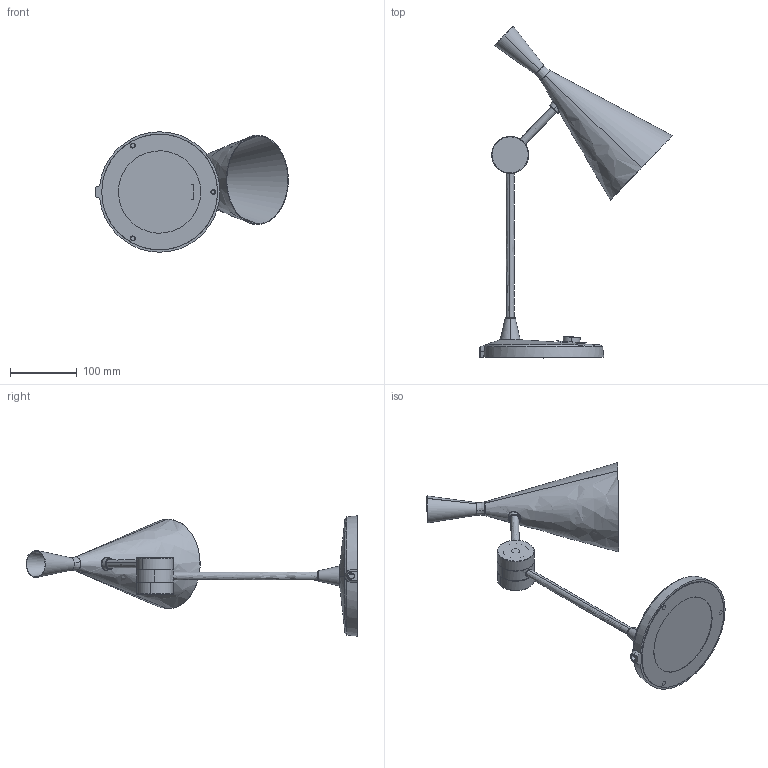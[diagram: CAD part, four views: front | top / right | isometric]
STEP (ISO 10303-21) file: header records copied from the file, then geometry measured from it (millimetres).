
FILE_DESCRIPTION(/* description */ (''),/* implementation_level */ '2;1');
FILE_NAME(/* name */ 'Table',/* time_stamp */ '2022-07-12T12:47:39+01:00',/* author */ (''),/* organization */ (''),/* preprocessor_version */ 'ST-DEVELOPER v16.5',/* originating_system */ '',/* authorisation */ '');
FILE_SCHEMA (('AUTOMOTIVE_DESIGN'));
Length unit declared in the file: millimetre
Products named in the file (1): Document
Bounding box: 287.97 x 496.2 x 180 mm (x, y, z)
Volume: 378693.9 mm3; surface area: 323882.8 mm2
Topology: 17 solids, 17 shells, 695 faces, 1805 edges, 1185 vertices
Faces by surface type: bspline 487, plane 208
Entity records: 41382 total; most frequent: CARTESIAN_POINT 30577, ORIENTED_EDGE 3582, EDGE_CURVE 1791, VERTEX_POINT 1185, B_SPLINE_CURVE_WITH_KNOTS 1053, EDGE_LOOP 782, ADVANCED_FACE 695, FACE_OUTER_BOUND 695
